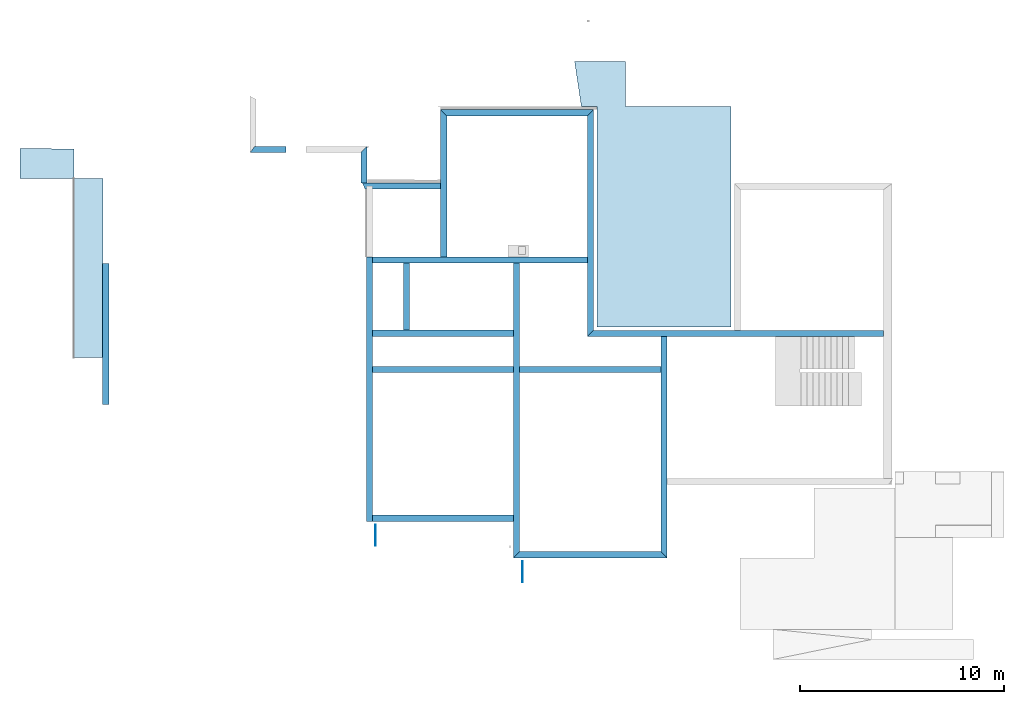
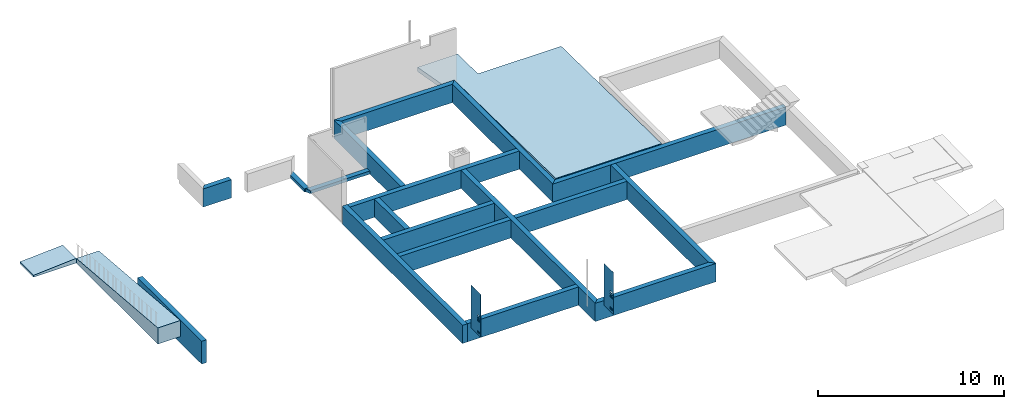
# One storey, part 3 of 5: 19 walls, 3 slabs, 9 openings.
"""IFC2X3 building model written with IfcOpenShell, lengths in metres."""

from ifc_helpers import new_model, entity, si_unit, converted_unit, derived_unit, direction, frame, frame_2d, origin, origin_2d_with_axis, place, context, subcontext, project, spatial, polyline, rectangle, outline, extrude, faceted_brep, material, layer, layer_set, layer_usage, type_object, element, save


model = new_model("IFC2X3")

# Units and contexts
model_context = context("Model", 3, precision=1e-05, world=origin(), true_north=direction((6.123031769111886e-17, 1.0)))
body_context = subcontext(model_context, "Body", "Model", "MODEL_VIEW")
ifc_project = project(units=[si_unit("LENGTHUNIT", "METRE"), si_unit("AREAUNIT", "SQUARE_METRE"), si_unit("VOLUMEUNIT", "CUBIC_METRE"), converted_unit("PLANEANGLEUNIT", "DEGREE", entity("IfcRatioMeasure", 0.017453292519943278), si_unit("PLANEANGLEUNIT", "RADIAN"), dimensions=[0, 0, 0, 0, 0, 0, 0]), si_unit("MASSUNIT", "GRAM", prefix="KILO"), derived_unit("MASSDENSITYUNIT", [(si_unit("MASSUNIT", "GRAM", prefix="KILO"), 1), (si_unit("LENGTHUNIT", "METRE"), -3)]), derived_unit("MOMENTOFINERTIAUNIT", [(si_unit("LENGTHUNIT", "METRE"), 4)]), si_unit("TIMEUNIT", "SECOND"), si_unit("FREQUENCYUNIT", "HERTZ"), si_unit("THERMODYNAMICTEMPERATUREUNIT", "DEGREE_CELSIUS"), derived_unit("THERMALTRANSMITTANCEUNIT", [(si_unit("MASSUNIT", "GRAM", prefix="KILO"), 1), (si_unit("THERMODYNAMICTEMPERATUREUNIT", "KELVIN"), -1), (si_unit("TIMEUNIT", "SECOND"), -3)]), derived_unit("THERMALCONDUCTANCEUNIT", [(si_unit("MASSUNIT", "GRAM", prefix="KILO"), 1), (si_unit("LENGTHUNIT", "METRE"), 1), (si_unit("THERMODYNAMICTEMPERATUREUNIT", "KELVIN"), -1), (si_unit("TIMEUNIT", "SECOND"), -3)]), derived_unit("VOLUMETRICFLOWRATEUNIT", [(si_unit("LENGTHUNIT", "METRE"), 3), (si_unit("TIMEUNIT", "SECOND"), -1)]), derived_unit("MASSFLOWRATEUNIT", [(si_unit("MASSUNIT", "GRAM", prefix="KILO"), 1), (si_unit("TIMEUNIT", "SECOND"), -1)]), derived_unit("ROTATIONALFREQUENCYUNIT", [(si_unit("TIMEUNIT", "SECOND"), -1)]), si_unit("ELECTRICCURRENTUNIT", "AMPERE"), si_unit("ELECTRICVOLTAGEUNIT", "VOLT"), si_unit("POWERUNIT", "WATT"), si_unit("FORCEUNIT", "NEWTON", prefix="KILO"), si_unit("ILLUMINANCEUNIT", "LUX"), si_unit("LUMINOUSFLUXUNIT", "LUMEN"), si_unit("LUMINOUSINTENSITYUNIT", "CANDELA"), derived_unit("USERDEFINED", [(si_unit("MASSUNIT", "GRAM", prefix="KILO"), -1), (si_unit("LENGTHUNIT", "METRE"), -2), (si_unit("TIMEUNIT", "SECOND"), 3), (si_unit("LUMINOUSFLUXUNIT", "LUMEN"), 1)]), derived_unit("USERDEFINED", [(si_unit("MASSUNIT", "GRAM", prefix="KILO"), 1), (si_unit("LENGTHUNIT", "METRE"), 3), (si_unit("TIMEUNIT", "SECOND"), -3), (si_unit("ELECTRICCURRENTUNIT", "AMPERE"), -2)]), derived_unit("USERDEFINED", [(si_unit("LENGTHUNIT", "METRE"), 2), (si_unit("TIMEUNIT", "SECOND"), -2)]), derived_unit("SOUNDPOWERUNIT", [(si_unit("MASSUNIT", "GRAM", prefix="KILO"), 1), (si_unit("LENGTHUNIT", "METRE"), 2), (si_unit("TIMEUNIT", "SECOND"), -3)]), derived_unit("SOUNDPRESSUREUNIT", [(si_unit("MASSUNIT", "GRAM", prefix="KILO"), 1), (si_unit("LENGTHUNIT", "METRE"), -1), (si_unit("TIMEUNIT", "SECOND"), -2)]), derived_unit("LINEARVELOCITYUNIT", [(si_unit("LENGTHUNIT", "METRE"), 1), (si_unit("TIMEUNIT", "SECOND"), -1)]), si_unit("PRESSUREUNIT", "PASCAL"), derived_unit("USERDEFINED", [(si_unit("LENGTHUNIT", "METRE"), -2), (si_unit("MASSUNIT", "GRAM", prefix="KILO"), 1), (si_unit("TIMEUNIT", "SECOND"), -2)]), derived_unit("LINEARFORCEUNIT", [(si_unit("MASSUNIT", "GRAM", prefix="KILO"), 1), (si_unit("LENGTHUNIT", "METRE"), 1), (si_unit("TIMEUNIT", "SECOND"), -2), (si_unit("LENGTHUNIT", "METRE"), -1)]), derived_unit("PLANARFORCEUNIT", [(si_unit("MASSUNIT", "GRAM", prefix="KILO"), 1), (si_unit("LENGTHUNIT", "METRE"), 1), (si_unit("TIMEUNIT", "SECOND"), -2), (si_unit("LENGTHUNIT", "METRE"), -2)]), derived_unit("SPECIFICHEATCAPACITYUNIT", [(si_unit("LENGTHUNIT", "METRE"), 2), (si_unit("TIMEUNIT", "SECOND"), -2), (si_unit("THERMODYNAMICTEMPERATUREUNIT", "KELVIN"), -1)]), derived_unit("VAPORPERMEABILITYUNIT", [(si_unit("TIMEUNIT", "SECOND"), 1), (si_unit("LENGTHUNIT", "METRE"), -1)]), derived_unit("DYNAMICVISCOSITYUNIT", [(si_unit("MASSUNIT", "GRAM", prefix="KILO"), 1), (si_unit("LENGTHUNIT", "METRE"), -1), (si_unit("TIMEUNIT", "SECOND"), -1)]), derived_unit("THERMALEXPANSIONCOEFFICIENTUNIT", [(si_unit("THERMODYNAMICTEMPERATUREUNIT", "KELVIN"), -1)])], contexts=[model_context])

# Site, building, storey
site_placement = place(None, origin())
site = spatial("IfcSite", under=ifc_project, at=site_placement, Name="Default", CompositionType="ELEMENT")
building_placement = place(site_placement, origin())
building = spatial("IfcBuilding", under=site, at=building_placement, CompositionType="ELEMENT")
storey_placement = place(building_placement, frame((0.0, 0.0, -1.0)))
storey = spatial("IfcBuildingStorey", under=building, at=storey_placement, Name="VS", CompositionType="ELEMENT", Elevation=-0.9999999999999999)

# Slabs
ifc_material_1 = material(Name="Béton - Brut")
slab_type_1 = type_object("IfcSlabType", Name="Dalle-006", PredefinedType="FLOOR", material=ifc_material_1)
slab_1_placement = place(storey_placement, frame((88.35075227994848, 13.967148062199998, -0.0800000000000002)))
element("IfcSlab", 1, at=slab_1_placement, inside=storey, type_object=slab_type_1, Name="Dalle-006:Dalle-006", ObjectType="Dalle-006:Dalle-006", PredefinedType="FLOOR", context=body_context, shape_type="Brep", body=[
    faceted_brep([(0.0, 6.142850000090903e-05, 0.0), (0.0, 8.780061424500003, 0.0), (1.3999999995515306, 8.780061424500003, 0.0), (1.4069671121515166, 8.780045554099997, 0.0), (1.406967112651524, 0.0, 0.0), (1.3999999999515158, 1.587040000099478e-05, 0.0), (0.0, 6.142850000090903e-05, 1.0088275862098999), (0.0, 6.142850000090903e-05, 1.06), (0.0, 8.780061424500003, 0.31000000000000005), (1.3999999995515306, 8.780061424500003, 0.31000000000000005), (1.404948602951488, 8.780050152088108, 0.31000000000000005), (1.4000651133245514, 4.171000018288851e-07, 1.0599999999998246), (1.4034868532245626, 7.927699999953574e-06, 0.5344936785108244), (1.4029003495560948, 5.097491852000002, 0.62456809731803), (0.0, 5.67724172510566e-05, 1.06), (0.0, 5.67724172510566e-05, 1.0088275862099), (1.399999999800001, 1.1214317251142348e-05, 0.0), (1.403486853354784, 1.11008498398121e-05, 0.534493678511), (1.4000651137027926, 1.1212198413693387e-05, 1.06)], [[[0, 1, 2, 3, 4, 5]], [[0, 6, 7, 8, 1]], [[1, 8, 9, 2]], [[2, 9, 10, 3]], [[11, 12, 4, 3, 10, 13]], [[12, 5, 4]], [[6, 0, 5]], [[14, 15, 16, 17, 18]], [[8, 7, 9]], [[9, 13, 10]], [[7, 11, 13, 9]]]),
])
slab_type_2 = type_object("IfcSlabType", Name="Dalle-006", PredefinedType="FLOOR", material=ifc_material_1)
slab_2_placement = place(storey_placement, frame((85.70075228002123, 22.747209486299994, -0.0800000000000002)))
element("IfcSlab", 2, at=slab_2_placement, inside=storey, type_object=slab_type_2, Name="Dalle-006 44348:Dalle-006 44348", ObjectType="Dalle-006 44348:Dalle-006 44348", PredefinedType="FLOOR", context=body_context, shape_type="Brep", body=[
    faceted_brep([(0.0, 0.0, 0.0), (0.0, 0.0, 0.11991578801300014), (0.0, 1.4697992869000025, 0.11991578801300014), (0.0, 1.4697992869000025, 0.0), (2.6500000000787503, 0.0, 0.0), (2.6500000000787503, 0.0, 0.31000000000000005), (2.6487602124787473, 1.4437713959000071, 0.3099157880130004), (2.6500000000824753, 1.4437592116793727, 0.0), (0.0, 1.4697992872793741, 0.0), (0.0, 1.4697992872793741, 0.11991578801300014), (2.64876021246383, 1.443771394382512, 0.30991578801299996), (2.6500000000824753, 1.4437592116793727, 0.31000000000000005), (2.6500000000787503, 1.443759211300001, 0.0), (2.6500000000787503, 1.443759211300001, 0.31000000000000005), (0.0, 0.0, 0.11991578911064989), (2.6500000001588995, 0.0, 0.3099999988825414), (2.6499998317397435, 1.4437592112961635, 0.3100023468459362), (2.6487603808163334, 1.443771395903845, 0.3099134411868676)], [[[0, 1, 2, 3]], [[1, 0, 4, 5]], [[2, 1, 6]], [[7, 8, 9, 10, 11]], [[0, 3, 12, 4]], [[4, 12, 13, 5]], [[14, 15, 16, 17]]]),
])
ifc_material_2 = material(Name="Env. - Herbe brune")
slab_type_3 = type_object("IfcSlabType", Name="Toit-03", PredefinedType="ROOF", material=ifc_material_2)
slab_3_placement = place(storey_placement, frame((112.86071462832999, 15.467209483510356, 0.4330743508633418)))
element("IfcSlab", 3, at=slab_3_placement, inside=storey, type_object=slab_type_3, Name="Toit-03 135242:Toit-03 135242", ObjectType="Toit-03 135242:Toit-03 135242", PredefinedType="ROOF", context=body_context, shape_type="Brep", body=[
    faceted_brep([(0.0, 13.010000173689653, 0.29789655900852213), (0.33000003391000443, 10.809999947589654, 0.3308965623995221), (1.0900376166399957, 10.809999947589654, 0.3308965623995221), (1.0900376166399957, 0.0, 0.49304656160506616), (7.660037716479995, 0.0, 0.49304656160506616), (7.660037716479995, 10.809999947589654, 0.3308965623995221), (2.4900376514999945, 10.809999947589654, 0.3308965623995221), (2.4900376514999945, 13.010000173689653, 0.29789655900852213), (0.01452102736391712, 13.010000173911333, 0.0), (0.34452106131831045, 10.809999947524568, 0.033000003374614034), (0.34452106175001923, 10.809999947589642, 0.03300000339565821), (1.0900376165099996, 10.809999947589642, 0.03300000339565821), (1.0900376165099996, 0.0, 0.19515000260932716), (7.660037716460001, 0.0, 0.19515000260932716), (7.660037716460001, 10.809999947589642, 0.03300000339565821), (2.490037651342, 10.809999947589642, 0.03300000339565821), (2.4900376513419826, 13.010000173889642, 0.0)], [[[0, 1, 2, 3, 4, 5, 6, 7]], [[1, 0, 8, 9]], [[2, 1, 10, 11]], [[3, 2, 11, 12]], [[4, 3, 12, 13]], [[5, 4, 13, 14]], [[6, 5, 14, 15]], [[7, 6, 15, 16]], [[0, 7, 16, 8]], [[10, 8, 16, 15, 14, 13, 12, 11]]]),
])

# Wall, openings
wall_type_1 = type_object("IfcWallType", Name="MurExt-026", PredefinedType="NOTDEFINED")
wall_1_placement = place(storey_placement, frame((110.305752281, 2.97720948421, 0.85), z_axis=(0.0, 0.0, 1.0), x_axis=(0.0, 1.0, 0.0)))
wall_1 = element("IfcWall", 4, at=wall_1_placement, inside=storey, type_object=wall_type_1, Name="MurExt-026:MurExt-026", ObjectType="MurExt-026:MurExt-026", context=body_context, shape_type="SweptSolid", body=[
    extrude(rectangle(XDim=0.019999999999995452, YDim=1.0199999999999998, at=origin_2d_with_axis()), frame((0.5099999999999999, -0.009999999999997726, 0.0), z_axis=(0.0, 0.0, 1.0), x_axis=(0.0, 1.0, 0.0)), (0.0, 0.0, 1.0), 2.74),
])
opening_1_placement = place(storey_placement, frame((110.305752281, 2.97720948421, 0.85), z_axis=(0.0, 0.0, 1.0), x_axis=(0.0, 1.0, 0.0)))
element("IfcOpeningElement", 5, at=opening_1_placement, cuts=wall_1, Name="MurExt-026:MurExt-026:1", ObjectType="Opening", context=body_context, shape_type="SweptSolid", body=[
    extrude(outline(polyline([(-0.11249999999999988, -0.12455555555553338), (-0.04716666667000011, -0.12455555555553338), (-0.04716666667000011, -0.027555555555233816), (0.04716666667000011, -0.027555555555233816), (0.04716666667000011, -0.12455555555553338), (0.11250000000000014, -0.12455555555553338), (0.11250000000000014, 0.12677777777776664), (0.04716666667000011, 0.12677777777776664), (0.04716666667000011, 0.0231111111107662), (-0.04716666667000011, 0.0231111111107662), (-0.04716666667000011, 0.12677777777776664), (-0.11249999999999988, 0.12677777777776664), (-0.11249999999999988, -0.12455555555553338)])), frame((0.2232222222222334, 0.0, 1.24488228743), z_axis=(0.0, -1.0, 0.0), x_axis=(0.0, 0.0, -1.0)), (0.0, 0.0, 1.0), 0.019999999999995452),
])
opening_2_placement = place(storey_placement, frame((110.305752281, 2.97720948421, 0.85), z_axis=(0.0, 0.0, 1.0), x_axis=(0.0, 1.0, 0.0)))
element("IfcOpeningElement", 6, at=opening_2_placement, cuts=wall_1, Name="MurExt-026:MurExt-026:2", ObjectType="Opening", context=body_context, shape_type="SweptSolid", body=[
    extrude(outline(polyline([(-0.0925555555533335, -0.12544444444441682), (0.0504444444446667, -0.12544444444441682), (0.0504444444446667, -0.07011111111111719), (-0.027222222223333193, -0.07011111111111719), (-0.027222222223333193, -0.02811111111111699), (0.04611111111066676, -0.02811111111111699), (0.04611111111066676, 0.02722222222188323), (-0.027222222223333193, 0.02722222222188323), (-0.027222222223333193, 0.07055555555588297), (0.0504444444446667, 0.07055555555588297), (0.0504444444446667, 0.1258888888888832), (-0.0925555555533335, 0.1258888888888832), (-0.0925555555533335, -0.12544444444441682)])), frame((0.22411111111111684, 0.0, 0.9871600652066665), z_axis=(0.0, -1.0, 0.0), x_axis=(0.0, 0.0, -1.0)), (0.0, 0.0, 1.0), 0.019999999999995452),
])
opening_3_placement = place(storey_placement, frame((110.305752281, 2.97720948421, 0.85), z_axis=(0.0, 0.0, 1.0), x_axis=(0.0, 1.0, 0.0)))
element("IfcOpeningElement", 7, at=opening_3_placement, cuts=wall_1, Name="MurExt-026:MurExt-026:3", ObjectType="Opening", context=body_context, shape_type="SweptSolid", body=[
    extrude(outline(polyline([(-0.09255555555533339, -0.12544444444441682), (0.0504444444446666, -0.12544444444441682), (0.0504444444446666, -0.07011111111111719), (-0.027222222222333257, -0.07011111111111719), (-0.027222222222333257, -0.02811111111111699), (0.04611111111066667, -0.02811111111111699), (0.04611111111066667, 0.02722222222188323), (-0.027222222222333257, 0.02722222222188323), (-0.027222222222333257, 0.07055555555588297), (0.0504444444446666, 0.07055555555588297), (0.0504444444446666, 0.1258888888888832), (-0.09255555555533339, 0.1258888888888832), (-0.09255555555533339, -0.12544444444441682)])), frame((0.22411111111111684, 0.0, 0.21716006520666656), z_axis=(0.0, -1.0, 0.0), x_axis=(0.0, 0.0, -1.0)), (0.0, 0.0, 1.0), 0.019999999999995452),
])
opening_4_placement = place(storey_placement, frame((110.305752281, 2.97720948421, 0.85), z_axis=(0.0, 0.0, 1.0), x_axis=(0.0, 1.0, 0.0)))
element("IfcOpeningElement", 8, at=opening_4_placement, cuts=wall_1, Name="MurExt-026:MurExt-026:4", ObjectType="Opening", context=body_context, shape_type="SweptSolid", body=[
    extrude(outline(polyline([(-0.029434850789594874, -0.03764471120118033), (0.017764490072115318, -0.03764471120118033), (0.023167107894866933, 0.03736810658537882), (-0.01149674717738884, 0.037921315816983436), (-0.029434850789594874, -0.03764471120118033)])), frame((0.042833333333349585, 0.0, 1.0139656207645), z_axis=(0.0, -1.0, 0.0), x_axis=(-0.6709133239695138, 0.0, -0.7415357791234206)), (0.0, 0.0, 1.0), 0.019999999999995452),
])

wall_type_2 = type_object("IfcWallType", Name="MurExt-026", PredefinedType="NOTDEFINED")
wall_2_placement = place(storey_placement, frame((103.09575228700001, 4.76720948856, 0.7899999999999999), z_axis=(0.0, 0.0, 1.0), x_axis=(0.0, 1.0, 0.0)))
wall_2 = element("IfcWall", 9, at=wall_2_placement, inside=storey, type_object=wall_type_2, Name="MurExt-026 133538:MurExt-026 133538", ObjectType="MurExt-026 133538:MurExt-026 133538", context=body_context, shape_type="SweptSolid", body=[
    extrude(rectangle(XDim=0.019999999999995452, YDim=1.0199999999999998, at=origin_2d_with_axis()), frame((0.5099999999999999, -0.009999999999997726, 0.0), z_axis=(0.0, 0.0, 1.0), x_axis=(0.0, 1.0, 0.0)), (0.0, 0.0, 1.0), 2.8),
])
opening_5_placement = place(storey_placement, frame((103.09575228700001, 4.76720948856, 0.7899999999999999), z_axis=(0.0, 0.0, 1.0), x_axis=(0.0, 1.0, 0.0)))
element("IfcOpeningElement", 10, at=opening_5_placement, cuts=wall_2, Name="MurExt-026 133538:MurExt-026 133538:1", ObjectType="Opening", context=body_context, shape_type="SweptSolid", body=[
    extrude(outline(polyline([(-0.11250000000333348, -0.12455555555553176), (-0.04716666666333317, -0.12455555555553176), (-0.04716666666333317, -0.02755555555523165), (0.04716666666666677, -0.02755555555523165), (0.04716666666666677, -0.12455555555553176), (0.11249999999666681, -0.12455555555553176), (0.11249999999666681, 0.12677777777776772), (0.04716666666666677, 0.12677777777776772), (0.04716666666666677, 0.023111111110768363), (-0.04716666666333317, 0.023111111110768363), (-0.04716666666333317, 0.12677777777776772), (-0.11250000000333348, 0.12677777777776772), (-0.11250000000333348, -0.12455555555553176)])), frame((0.22322222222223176, 0.0, 1.1965489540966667), z_axis=(0.0, -1.0, 0.0), x_axis=(0.0, 0.0, -1.0)), (0.0, 0.0, 1.0), 0.019999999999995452),
])
opening_6_placement = place(storey_placement, frame((103.09575228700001, 4.76720948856, 0.7899999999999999), z_axis=(0.0, 0.0, 1.0), x_axis=(0.0, 1.0, 0.0)))
element("IfcOpeningElement", 11, at=opening_6_placement, cuts=wall_2, Name="MurExt-026 133538:MurExt-026 133538:2", ObjectType="Opening", context=body_context, shape_type="SweptSolid", body=[
    extrude(outline(polyline([(-0.09255555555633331, -0.12544444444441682), (0.0504444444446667, -0.12544444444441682), (0.0504444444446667, -0.07011111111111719), (-0.027222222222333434, -0.07011111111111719), (-0.027222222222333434, -0.02811111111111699), (0.04611111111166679, -0.02811111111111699), (0.04611111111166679, 0.02722222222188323), (-0.027222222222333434, 0.02722222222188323), (-0.027222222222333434, 0.07055555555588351), (0.0504444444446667, 0.07055555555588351), (0.0504444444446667, 0.12588888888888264), (-0.09255555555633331, 0.12588888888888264), (-0.09255555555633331, -0.12544444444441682)])), frame((0.22411111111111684, 0.0, 0.9388267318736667), z_axis=(0.0, -1.0, 0.0), x_axis=(0.0, 0.0, -1.0)), (0.0, 0.0, 1.0), 0.019999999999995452),
])
opening_7_placement = place(storey_placement, frame((103.09575228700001, 4.76720948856, 0.7899999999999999), z_axis=(0.0, 0.0, 1.0), x_axis=(0.0, 1.0, 0.0)))
element("IfcOpeningElement", 12, at=opening_7_placement, cuts=wall_2, Name="MurExt-026 133538:MurExt-026 133538:3", ObjectType="Opening", context=body_context, shape_type="SweptSolid", body=[
    extrude(outline(polyline([(-0.09255555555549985, -0.12544444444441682), (0.05044444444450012, -0.12544444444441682), (0.05044444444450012, -0.07011111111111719), (-0.02722222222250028, -0.07011111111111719), (-0.02722222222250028, -0.02811111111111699), (0.046111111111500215, -0.02811111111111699), (0.046111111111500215, 0.02722222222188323), (-0.02722222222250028, 0.02722222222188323), (-0.02722222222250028, 0.07055555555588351), (0.05044444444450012, 0.07055555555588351), (0.05044444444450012, 0.12588888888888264), (-0.09255555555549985, 0.12588888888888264), (-0.09255555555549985, -0.12544444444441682)])), frame((0.22411111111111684, 0.0, 0.16882673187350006), z_axis=(0.0, -1.0, 0.0), x_axis=(0.0, 0.0, -1.0)), (0.0, 0.0, 1.0), 0.019999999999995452),
])
opening_8_placement = place(storey_placement, frame((103.09575228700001, 4.76720948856, 0.7899999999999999), z_axis=(0.0, 0.0, 1.0), x_axis=(0.0, 1.0, 0.0)))
element("IfcOpeningElement", 13, at=opening_8_placement, cuts=wall_2, Name="MurExt-026 133538:MurExt-026 133538:4", ObjectType="Opening", context=body_context, shape_type="SweptSolid", body=[
    extrude(outline(polyline([(-0.02943485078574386, -0.03764471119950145), (0.017764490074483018, -0.03764471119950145), (0.023167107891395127, 0.037368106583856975), (-0.011496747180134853, 0.03792131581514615), (-0.02943485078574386, -0.03764471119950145)])), frame((0.042833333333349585, 0.0, 0.9656322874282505), z_axis=(0.0, -1.0, 0.0), x_axis=(-0.6709133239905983, 0.0, -0.7415357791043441)), (0.0, 0.0, 1.0), 0.019999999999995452),
])

# Walls
ifc_material_3 = material(Name="Appareillage - Pierre taillé")
ifc_layer = layer(ifc_material_3, 0.29999999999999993)
ifc_layer_set = layer_set([ifc_layer], Name="Mur de base:Struct. - Pierre 300")
ifc_layer_usage = layer_usage(ifc_layer_set, "AXIS2", "NEGATIVE", 0.14999999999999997)
wall_type_3 = type_object("IfcWallType", Name="Mur de base:Struct. - Pierre 300", PredefinedType="STANDARD", material=ifc_layer_set)
wall_3_placement = place(storey_placement, frame((102.81075227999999, 5.95720948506, -0.19999999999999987), z_axis=(0.0, 0.0, 1.0), x_axis=(0.0, 1.0, 0.0)))
element("IfcWallStandardCase", 14, at=wall_3_placement, inside=storey, type_object=wall_type_3, material=ifc_layer_usage, Name="MurExt-010", ObjectType="Mur de base:Struct. - Pierre 300", context=body_context, shape_type="SweptSolid", body=[
    extrude(rectangle(XDim=12.940000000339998, YDim=0.3000000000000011, at=frame_2d((6.470000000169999, 0.0), x_axis=(-1.0, 0.0))), origin(), (0.0, 0.0, 1.0), 1.1999999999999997),
])
wall_4_placement = place(storey_placement, frame((117.240752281, 15.0072094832, -0.19999999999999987), z_axis=(0.0, 0.0, 1.0), x_axis=(0.0, -1.0, 0.0)))
element("IfcWallStandardCase", 15, at=wall_4_placement, inside=storey, type_object=wall_type_3, material=ifc_layer_usage, Name="MurExt-013", ObjectType="Mur de base:Struct. - Pierre 300", context=body_context, shape_type="SweptSolid", body=[
    extrude(outline(polyline([(10.53999999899, -0.15000000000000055), (10.839999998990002, 0.15000000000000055), (7.259999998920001, 0.15000000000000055), (6.959999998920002, 0.15000000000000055), (0.0, 0.15000000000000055), (0.0, -0.15000000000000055), (1.4699999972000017, -0.15000000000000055), (1.7699999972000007, -0.15000000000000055), (10.53999999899, -0.15000000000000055)])), origin(), (0.0, 0.0, 1.0), 1.1999999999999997),
])
wall_5_placement = place(storey_placement, frame((117.390752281, 4.317209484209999, -0.19999999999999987), z_axis=(0.0, 0.0, 1.0), x_axis=(-1.0, 0.0, 0.0)))
element("IfcWallStandardCase", 16, at=wall_5_placement, inside=storey, type_object=wall_type_3, material=ifc_layer_usage, Name="MurExt-013", ObjectType="Mur de base:Struct. - Pierre 300", context=body_context, shape_type="SweptSolid", body=[
    extrude(outline(polyline([(7.220000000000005, -0.15000000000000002), (7.520000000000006, 0.15000000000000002), (0.0, 0.15000000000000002), (0.3000000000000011, -0.15000000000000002), (7.220000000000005, -0.15000000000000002)])), origin(), (0.0, 0.0, 1.0), 1.1999999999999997),
])
wall_6_placement = place(storey_placement, frame((110.020752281, 4.167209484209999, -0.19999999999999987), z_axis=(0.0, 0.0, 1.0), x_axis=(0.0, 1.0, 0.0)))
element("IfcWallStandardCase", 17, at=wall_6_placement, inside=storey, type_object=wall_type_3, material=ifc_layer_usage, Name="MurExt-012", ObjectType="Mur de base:Struct. - Pierre 300", context=body_context, shape_type="SweptSolid", body=[
    extrude(outline(polyline([(14.43000000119, -0.15000000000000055), (14.43000000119, 0.15000000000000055), (11.149999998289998, 0.15000000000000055), (10.849999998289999, 0.15000000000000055), (9.37000000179, 0.15000000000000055), (9.070000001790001, 0.15000000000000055), (2.09000000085, 0.15000000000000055), (1.7900000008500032, 0.15000000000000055), (0.0, 0.15000000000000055), (0.3000000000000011, -0.15000000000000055), (9.07000000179, -0.15000000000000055), (9.37000000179, -0.15000000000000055), (14.43000000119, -0.15000000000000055)])), origin(), (0.0, 0.0, 1.0), 1.1999999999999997),
])
wall_7_placement = place(storey_placement, frame((109.870752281, 6.107209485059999, -0.19999999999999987), z_axis=(0.0, 0.0, 1.0), x_axis=(-1.0, 0.0, 0.0)))
element("IfcWallStandardCase", 18, at=wall_7_placement, inside=storey, type_object=wall_type_3, material=ifc_layer_usage, Name="MurExt-011", ObjectType="Mur de base:Struct. - Pierre 300", context=body_context, shape_type="SweptSolid", body=[
    extrude(rectangle(XDim=6.910000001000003, YDim=0.29999999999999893, at=frame_2d((3.4550000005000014, 0.0), x_axis=(-1.0, 0.0))), origin(), (0.0, 0.0, 1.0), 1.1999999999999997),
])
wall_8_placement = place(storey_placement, frame((106.45075227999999, 18.897209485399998, -0.19999999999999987), z_axis=(0.0, 0.0, 1.0), x_axis=(0.0, 1.0, 0.0)))
element("IfcWallStandardCase", 19, at=wall_8_placement, inside=storey, type_object=wall_type_3, material=ifc_layer_usage, Name="MurExt-002", ObjectType="Mur de base:Struct. - Pierre 300", context=body_context, shape_type="SweptSolid", body=[
    extrude(outline(polyline([(6.919999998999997, -0.15000000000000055), (7.219999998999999, 0.15000000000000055), (3.629999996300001, 0.15000000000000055), (3.3299999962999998, 0.15000000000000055), (0.0, 0.15000000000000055), (0.0, -0.15000000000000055), (6.919999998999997, -0.15000000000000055)])), origin(), (0.0, 0.0, 1.0), 1.1999999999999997),
])
wall_9_placement = place(storey_placement, frame((98.71575228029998, 24.167209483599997, -0.19999999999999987), z_axis=(0.0, 0.0, 1.0), x_axis=(-1.0, 0.0, 0.0)))
element("IfcWallStandardCase", 20, at=wall_9_placement, inside=storey, type_object=wall_type_3, material=ifc_layer_usage, Name="MurExt-008", ObjectType="Mur de base:Struct. - Pierre 300", context=body_context, shape_type="SweptSolid", body=[
    extrude(outline(polyline([(1.5250000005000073, -0.15000000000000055), (1.745000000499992, 0.15000000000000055), (0.0, 0.15000000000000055), (0.0, -0.15000000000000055), (1.5250000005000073, -0.15000000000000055)])), origin(), (0.0, 0.0, 1.0), 1.1999999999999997),
])
wall_10_placement = place(storey_placement, frame((106.30075228, 25.967209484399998, -0.19999999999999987)))
element("IfcWallStandardCase", 21, at=wall_10_placement, inside=storey, type_object=wall_type_3, material=ifc_layer_usage, Name="MurExt-005", ObjectType="Mur de base:Struct. - Pierre 300", context=body_context, shape_type="SweptSolid", body=[
    extrude(outline(polyline([(7.190000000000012, -0.15000000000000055), (7.490000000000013, 0.15000000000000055), (0.0, 0.15000000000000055), (0.3000000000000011, -0.15000000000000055), (7.190000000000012, -0.15000000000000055)])), origin(), (0.0, 0.0, 1.0), 1.1999999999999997),
])
wall_11_placement = place(storey_placement, frame((113.64075228, 26.117209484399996, -0.19999999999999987), z_axis=(0.0, 0.0, 1.0), x_axis=(0.0, -1.0, 0.0)))
element("IfcWallStandardCase", 22, at=wall_11_placement, inside=storey, type_object=wall_type_3, material=ifc_layer_usage, Name="MurExt-004", ObjectType="Mur de base:Struct. - Pierre 300", context=body_context, shape_type="SweptSolid", body=[
    extrude(outline(polyline([(11.110000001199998, -0.15000000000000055), (10.810000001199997, 0.15000000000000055), (0.0, 0.15000000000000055), (0.3000000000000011, -0.15000000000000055), (7.219999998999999, -0.15000000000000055), (7.519999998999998, -0.15000000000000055), (11.110000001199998, -0.15000000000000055)])), origin(), (0.0, 0.0, 1.0), 1.1999999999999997),
])
wall_12_placement = place(storey_placement, frame((113.49075228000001, 15.157209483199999, -0.19999999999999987)))
element("IfcWallStandardCase", 23, at=wall_12_placement, inside=storey, type_object=wall_type_3, material=ifc_layer_usage, Name="MurExt-018", ObjectType="Mur de base:Struct. - Pierre 300", context=body_context, shape_type="SweptSolid", body=[
    extrude(outline(polyline([(14.499999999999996, -0.14999999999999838), (14.499999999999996, 0.15000000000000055), (7.489999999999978, 0.15000000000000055), (7.189999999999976, 0.15000000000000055), (0.3000000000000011, 0.15000000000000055), (0.0, -0.14999999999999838), (3.6000000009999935, -0.14999999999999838), (3.9000000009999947, -0.14999999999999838), (14.499999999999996, -0.14999999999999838)])), origin(), (0.0, 0.0, 1.0), 1.1999999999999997),
])

# Wall, opening
wall_13_placement = place(storey_placement, frame((102.96075228, 13.387209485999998, -0.19999999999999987)))
wall_13 = element("IfcWallStandardCase", 24, at=wall_13_placement, inside=storey, type_object=wall_type_3, material=ifc_layer_usage, Name="MurExt-003", ObjectType="Mur de base:Struct. - Pierre 300", context=body_context, shape_type="SweptSolid", body=[
    extrude(rectangle(XDim=14.130000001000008, YDim=0.3000000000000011, at=frame_2d((7.065000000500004, 0.0), x_axis=(-1.0, 0.0))), origin(), (0.0, 0.0, 1.0), 1.2),
])
opening_9_placement = place(storey_placement, frame((102.96075228, 13.387209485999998, -0.19999999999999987)))
element("IfcOpeningElement", 25, at=opening_9_placement, cuts=wall_13, Name="MurExt-003:1", ObjectType="Opening", context=body_context, shape_type="SweptSolid", body=[
    extrude(rectangle(XDim=1.1999999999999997, YDim=0.29999999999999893, at=frame_2d((0.0, 1.0824674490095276e-15), x_axis=(1.0, 0.0))), frame((6.910000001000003, 0.0, 0.5999999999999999), z_axis=(1.0, 0.0, 0.0), x_axis=(0.0, 0.0, -1.0)), (0.0, 0.0, 1.0), 0.3000000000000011),
])

# Walls
wall_14_placement = place(storey_placement, frame((89.90075227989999, 11.677209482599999, -0.4999999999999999), z_axis=(0.0, 0.0, 1.0), x_axis=(0.0, 1.0, 0.0)))
element("IfcWallStandardCase", 26, at=wall_14_placement, inside=storey, type_object=wall_type_3, material=ifc_layer_usage, Name="MurExt-010", ObjectType="Mur de base:Struct. - Pierre 300", context=body_context, shape_type="SweptSolid", body=[
    extrude(rectangle(XDim=6.9000000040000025, YDim=0.3000000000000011, at=frame_2d((3.4500000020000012, 0.0), x_axis=(-1.0, 0.0))), origin(), (0.0, 0.0, 1.0), 1.4999999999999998),
])
wall_15_placement = place(storey_placement, frame((104.63075228, 15.317209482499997, -0.19999999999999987), z_axis=(0.0, 0.0, 1.0), x_axis=(0.0, 1.0, 0.0)))
element("IfcWallStandardCase", 27, at=wall_15_placement, inside=storey, type_object=wall_type_3, material=ifc_layer_usage, Name="MurExt-012", ObjectType="Mur de base:Struct. - Pierre 300", context=body_context, shape_type="SweptSolid", body=[
    extrude(rectangle(XDim=3.280000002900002, YDim=0.3000000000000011, at=frame_2d((1.640000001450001, 0.0), x_axis=(-1.0, 0.0))), origin(), (0.0, 0.0, 1.0), 1.1999999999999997),
])
wall_16_placement = place(storey_placement, frame((102.46075227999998, 22.3772094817, -0.19999999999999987)))
element("IfcWallStandardCase", 28, at=wall_16_placement, inside=storey, type_object=wall_type_3, material=ifc_layer_usage, Name="MurExt-008", ObjectType="Mur de base:Struct. - Pierre 300", context=body_context, shape_type="SweptSolid", body=[
    extrude(outline(polyline([(3.8400000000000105, -0.15000000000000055), (3.8400000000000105, 0.15000000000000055), (0.23000000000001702, 0.15000000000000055), (0.0, 0.15000000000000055), (0.14000000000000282, -0.15000000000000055), (0.2000000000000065, -0.15000000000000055), (0.5000000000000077, -0.15000000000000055), (3.8400000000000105, -0.15000000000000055)])), origin(), (0.0, 0.0, 1.0), 0.2),
])
wall_17_placement = place(storey_placement, frame((102.54075227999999, 24.3172094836, -0.19999999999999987), z_axis=(0.0, 0.0, 1.0), x_axis=(0.0, -1.0, 0.0)))
element("IfcWallStandardCase", 29, at=wall_17_placement, inside=storey, type_object=wall_type_3, material=ifc_layer_usage, Name="MurExt-009", ObjectType="Mur de base:Struct. - Pierre 300", context=body_context, shape_type="SweptSolid", body=[
    extrude(outline(polyline([(1.7900000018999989, -0.15000000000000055), (1.7900000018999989, -0.08000000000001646), (1.7900000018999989, 0.15000000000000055), (0.0, 0.15000000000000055), (0.3000000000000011, -0.15000000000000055), (1.7900000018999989, -0.15000000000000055)])), origin(), (0.0, 0.0, 1.0), 0.2),
])
wall_18_placement = place(storey_placement, frame((109.870752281, 15.167209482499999, -0.19999999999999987), z_axis=(0.0, 0.0, 1.0), x_axis=(-1.0, 0.0, 0.0)))
element("IfcWallStandardCase", 30, at=wall_18_placement, inside=storey, type_object=wall_type_3, material=ifc_layer_usage, Name="MurExt-012", ObjectType="Mur de base:Struct. - Pierre 300", context=body_context, shape_type="SweptSolid", body=[
    extrude(rectangle(XDim=6.910000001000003, YDim=0.3000000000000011, at=frame_2d((3.4550000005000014, 0.0), x_axis=(-1.0, 0.0))), origin(), (0.0, 0.0, 1.0), 1.2),
])
wall_19_placement = place(storey_placement, frame((113.49075228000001, 18.7472094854, -0.19999999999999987), z_axis=(0.0, 0.0, 1.0), x_axis=(-1.0, 0.0, 0.0)))
element("IfcWallStandardCase", 31, at=wall_19_placement, inside=storey, type_object=wall_type_3, material=ifc_layer_usage, Name="MurExt-002", ObjectType="Mur de base:Struct. - Pierre 300", context=body_context, shape_type="SweptSolid", body=[
    extrude(rectangle(XDim=10.530000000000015, YDim=0.3000000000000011, at=frame_2d((5.265000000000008, 0.0), x_axis=(-1.0, 0.0))), origin(), (0.0, 0.0, 1.0), 1.1999999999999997),
])

save(model, "model.ifc")
